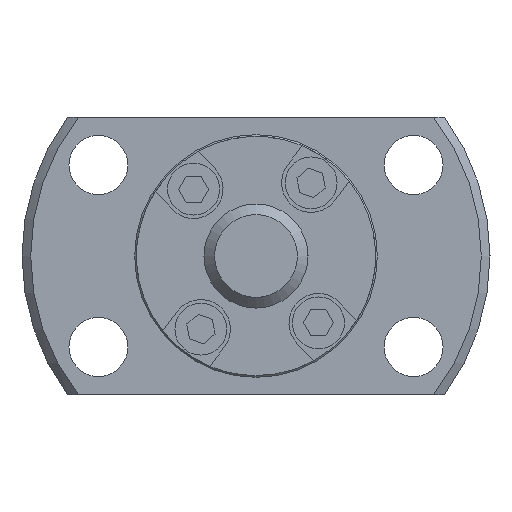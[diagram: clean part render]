
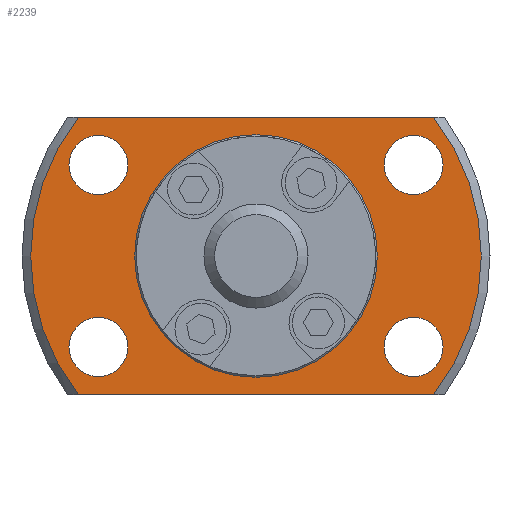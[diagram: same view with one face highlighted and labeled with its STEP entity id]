
A CAD part, left-side view. The second image highlights one B-rep face of the part: STEP entity #2239.
In plain terms, the highlighted planar face has unit normal (-1, 0, 0).
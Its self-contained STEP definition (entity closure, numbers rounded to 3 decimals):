
#92=LINE('',#3521,#308);
#93=LINE('',#3525,#309);
#308=VECTOR('',#2806,1000.);
#309=VECTOR('',#2809,1000.);
#632=ORIENTED_EDGE('',*,*,#1228,.F.);
#633=ORIENTED_EDGE('',*,*,#1229,.F.);
#634=ORIENTED_EDGE('',*,*,#1230,.F.);
#635=ORIENTED_EDGE('',*,*,#1231,.F.);
#636=ORIENTED_EDGE('',*,*,#1184,.F.);
#637=ORIENTED_EDGE('',*,*,#1232,.T.);
#638=ORIENTED_EDGE('',*,*,#1233,.F.);
#639=ORIENTED_EDGE('',*,*,#1234,.T.);
#640=ORIENTED_EDGE('',*,*,#1227,.T.);
#1184=EDGE_CURVE('',#1490,#1491,#1659,.T.);
#1227=EDGE_CURVE('',#1528,#1528,#1681,.T.);
#1228=EDGE_CURVE('',#1529,#1529,#1682,.F.);
#1229=EDGE_CURVE('',#1530,#1530,#1683,.F.);
#1230=EDGE_CURVE('',#1531,#1531,#1684,.F.);
#1231=EDGE_CURVE('',#1532,#1532,#1685,.F.);
#1232=EDGE_CURVE('',#1490,#1533,#92,.T.);
#1233=EDGE_CURVE('',#1534,#1533,#1686,.T.);
#1234=EDGE_CURVE('',#1534,#1491,#93,.T.);
#1490=VERTEX_POINT('',#3411);
#1491=VERTEX_POINT('',#3413);
#1528=VERTEX_POINT('',#3511);
#1529=VERTEX_POINT('',#3514);
#1530=VERTEX_POINT('',#3516);
#1531=VERTEX_POINT('',#3518);
#1532=VERTEX_POINT('',#3520);
#1533=VERTEX_POINT('',#3522);
#1534=VERTEX_POINT('',#3524);
#1659=CIRCLE('',#2410,13.);
#1681=CIRCLE('',#2441,6.8);
#1682=CIRCLE('',#2443,1.7);
#1683=CIRCLE('',#2444,1.7);
#1684=CIRCLE('',#2445,1.7);
#1685=CIRCLE('',#2446,1.7);
#1686=CIRCLE('',#2447,13.);
#1771=EDGE_LOOP('',(#632));
#1772=EDGE_LOOP('',(#633));
#1773=EDGE_LOOP('',(#634));
#1774=EDGE_LOOP('',(#635));
#1775=EDGE_LOOP('',(#636,#637,#638,#639));
#1776=EDGE_LOOP('',(#640));
#1965=FACE_BOUND('',#1771,.T.);
#1966=FACE_BOUND('',#1772,.T.);
#1967=FACE_BOUND('',#1773,.T.);
#1968=FACE_BOUND('',#1774,.T.);
#1969=FACE_BOUND('',#1775,.T.);
#1970=FACE_BOUND('',#1776,.T.);
#2128=PLANE('',#2442);
#2239=ADVANCED_FACE('',(#1965,#1966,#1967,#1968,#1969,#1970),#2128,.F.);
#2410=AXIS2_PLACEMENT_3D('',#3412,#2714,#2715);
#2441=AXIS2_PLACEMENT_3D('',#3510,#2794,#2795);
#2442=AXIS2_PLACEMENT_3D('',#3512,#2796,#2797);
#2443=AXIS2_PLACEMENT_3D('',#3513,#2798,#2799);
#2444=AXIS2_PLACEMENT_3D('',#3515,#2800,#2801);
#2445=AXIS2_PLACEMENT_3D('',#3517,#2802,#2803);
#2446=AXIS2_PLACEMENT_3D('',#3519,#2804,#2805);
#2447=AXIS2_PLACEMENT_3D('',#3523,#2807,#2808);
#2714=DIRECTION('',(1.,0.,0.));
#2715=DIRECTION('',(0.,0.,-1.));
#2794=DIRECTION('',(1.,0.,0.));
#2795=DIRECTION('',(0.,0.,-1.));
#2796=DIRECTION('',(1.,0.,0.));
#2797=DIRECTION('',(0.,0.,-1.));
#2798=DIRECTION('',(1.,0.,0.));
#2799=DIRECTION('',(0.,0.,-1.));
#2800=DIRECTION('',(1.,0.,0.));
#2801=DIRECTION('',(0.,0.,-1.));
#2802=DIRECTION('',(1.,0.,0.));
#2803=DIRECTION('',(0.,0.,-1.));
#2804=DIRECTION('',(1.,0.,0.));
#2805=DIRECTION('',(0.,0.,-1.));
#2806=DIRECTION('',(0.,-1.,0.));
#2807=DIRECTION('',(1.,0.,0.));
#2808=DIRECTION('',(0.,0.,-1.));
#2809=DIRECTION('',(0.,1.,0.));
#3411=CARTESIAN_POINT('',(11.5,10.247,-8.));
#3412=CARTESIAN_POINT('',(11.5,0.,0.));
#3413=CARTESIAN_POINT('',(11.5,10.247,8.));
#3510=CARTESIAN_POINT('',(11.5,0.,0.));
#3511=CARTESIAN_POINT('',(11.5,0.,-6.8));
#3512=CARTESIAN_POINT('',(11.5,6.8,0.));
#3513=CARTESIAN_POINT('',(11.5,-9.093,-5.25));
#3514=CARTESIAN_POINT('',(11.5,-9.093,-6.95));
#3515=CARTESIAN_POINT('',(11.5,-9.093,5.25));
#3516=CARTESIAN_POINT('',(11.5,-9.093,3.55));
#3517=CARTESIAN_POINT('',(11.5,9.093,-5.25));
#3518=CARTESIAN_POINT('',(11.5,9.093,-6.95));
#3519=CARTESIAN_POINT('',(11.5,9.093,5.25));
#3520=CARTESIAN_POINT('',(11.5,9.093,3.55));
#3521=CARTESIAN_POINT('',(11.5,6.8,-8.));
#3522=CARTESIAN_POINT('',(11.5,-10.247,-8.));
#3523=CARTESIAN_POINT('',(11.5,0.,0.));
#3524=CARTESIAN_POINT('',(11.5,-10.247,8.));
#3525=CARTESIAN_POINT('',(11.5,6.8,8.));
